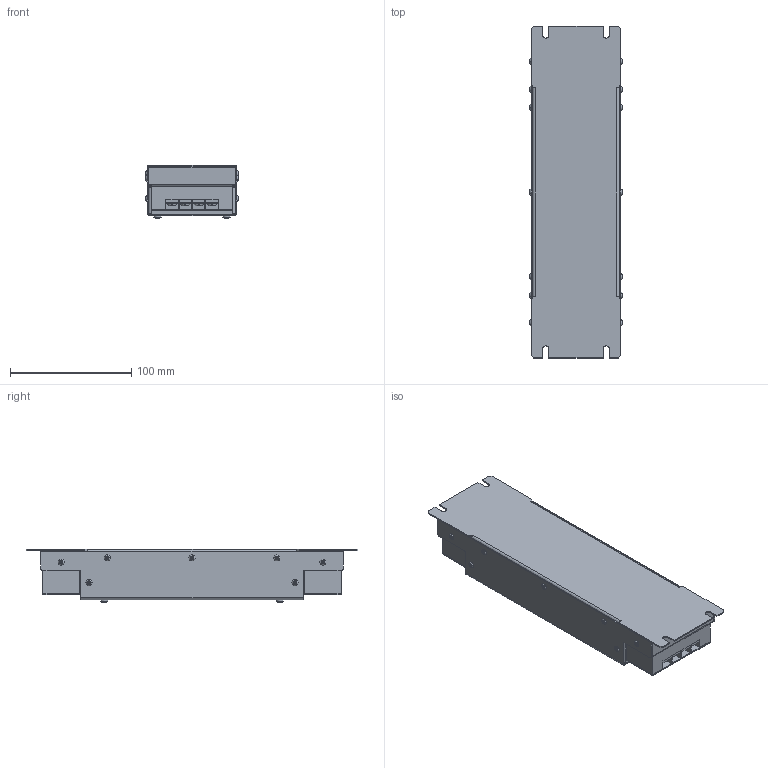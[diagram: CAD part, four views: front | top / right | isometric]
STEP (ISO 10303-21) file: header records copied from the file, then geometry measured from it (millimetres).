
FILE_DESCRIPTION (( 'STEP AP203' ), '1' );
FILE_NAME ('ÝÌÑ ôèëüòð _ IEF-5.5_15.5-4.STEP', '2025-07-21T13:11:34', ( '' ), ( '' ), 'SwSTEP 2.0', 'SolidWorks 2021', '' );
FILE_SCHEMA (( 'CONFIG_CONTROL_DESIGN' ));
Length unit declared in the file: millimetre
Products named in the file (10): Êðûøêà êëåììíèêà; Çàêëåïêà DIN 7337_2.4å8; ÝÌÑ ôèëüòð _ IEF-5.5_15.5-4; Êîðïóñ êëåììíèêà; 抔樦憵; Êðûøêà; Äíèùå; Ïîëêà êëåììíèêà; Âèíò DIN 7985 PH_Œ3å14; 抔樦擨鴀
Assembly tree (30 placements, depth 3):
  ÝÌÑ ôèëüòð _ IEF-5.5_15.5-4
    抔樦擨鴀  x2
      Êîðïóñ êëåììíèêà
      Êðûøêà êëåììíèêà
      抔樦憵
    Êðûøêà
    Ïîëêà êëåììíèêà  x2
    Äíèùå
    Çàêëåïêà DIN 7337_2.4å8  x14
    Âèíò DIN 7985 PH_Œ3å14  x4
Bounding box: 76 x 274 x 43.77 mm (x, y, z)
Volume: 130119.4 mm3; surface area: 168085.2 mm2
Topology: 34 solids, 34 shells, 1228 faces, 3116 edges, 2000 vertices
Faces by surface type: plane 768, cylinder 268, torus 100, cone 52, bspline 32, sphere 8
Entity records: 13372 total; most frequent: CARTESIAN_POINT 2246, DIRECTION 2023, ORIENTED_EDGE 1956, EDGE_CURVE 978, AXIS2_PLACEMENT_3D 699, VERTEX_POINT 630, VECTOR 625, LINE 625
